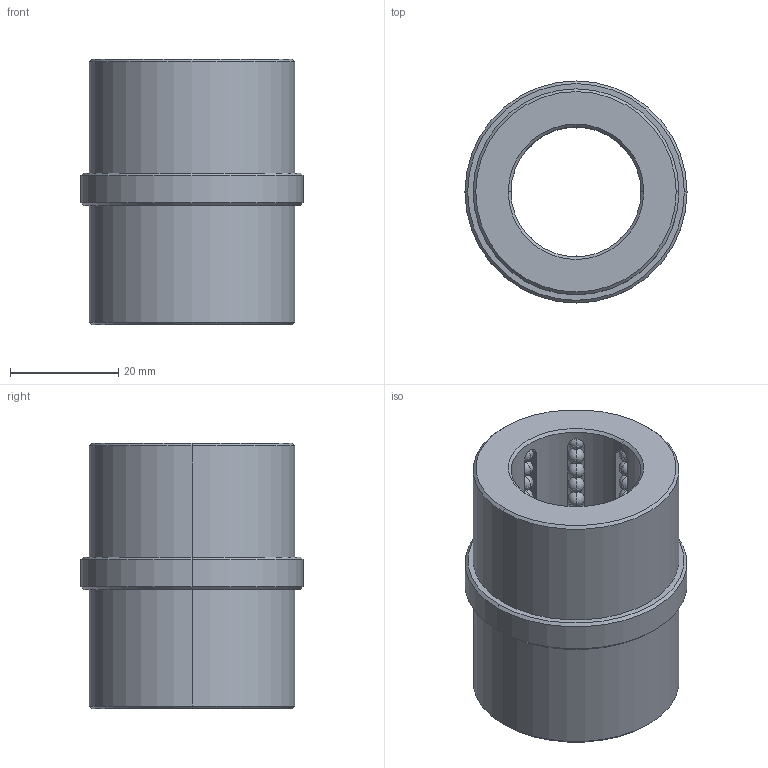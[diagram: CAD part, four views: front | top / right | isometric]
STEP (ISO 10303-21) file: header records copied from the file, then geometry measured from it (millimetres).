
FILE_DESCRIPTION((''),'2;1');
FILE_NAME('B844242227','2018-01-24T',('MANU'),(''),'PRO/ENGINEER BY PARAMETRIC TECHNOLOGY CORPORATION, 2012130','PRO/ENGINEER BY PARAMETRIC TECHNOLOGY CORPORATION, 2012130','');
FILE_SCHEMA(('CONFIG_CONTROL_DESIGN'));
Length unit declared in the file: millimetre
Products named in the file (1): B844242227
Bounding box: 41 x 41 x 49 mm (x, y, z)
Volume: 32940 mm3; surface area: 16518.8 mm2
Topology: 113 solids, 113 shells, 288 faces, 822 edges, 320 vertices
Faces by surface type: sphere 224, plane 28, cylinder 24, cone 12
Entity records: 6366 total; most frequent: CARTESIAN_POINT 1268, DIRECTION 1198, ORIENTED_EDGE 748, AXIS2_PLACEMENT_3D 556, EDGE_CURVE 374, VERTEX_POINT 320, EDGE_LOOP 298, FACE_OUTER_BOUND 288
